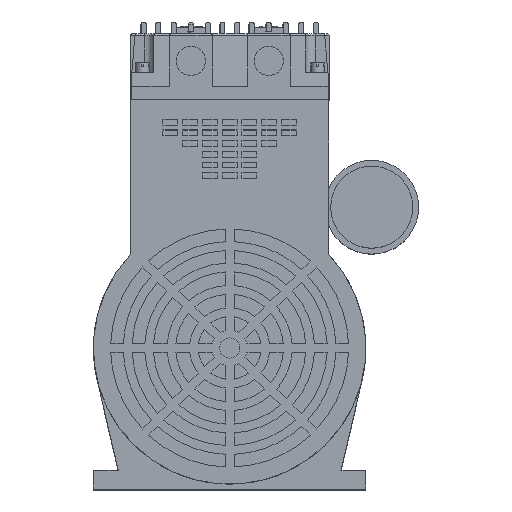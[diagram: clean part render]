
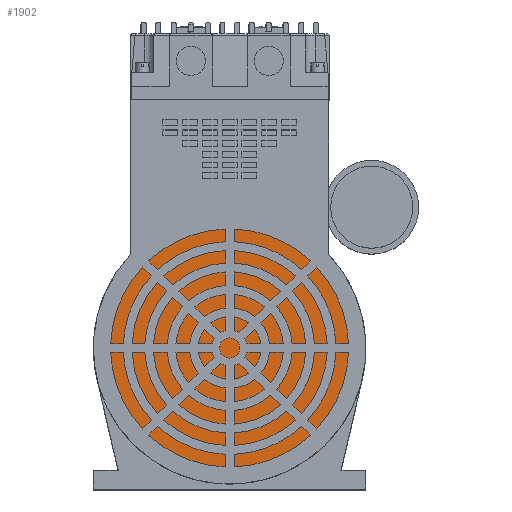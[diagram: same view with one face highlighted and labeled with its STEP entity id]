
A CAD part, top view. The second image highlights one B-rep face of the part: STEP entity #1902.
In plain terms, the highlighted planar face has unit normal (0, 0, 1).
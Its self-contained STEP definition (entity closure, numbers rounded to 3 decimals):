
#1902=ADVANCED_FACE('',(#5116),#5117,.T.);
#5116=FACE_OUTER_BOUND('',#8573,.T.);
#5117=PLANE('',#8574);
#8573=EDGE_LOOP('',(#20362));
#8574=AXIS2_PLACEMENT_3D('',#20363,#20364,#20365);
#20362=ORIENTED_EDGE('',*,*,#25720,.T.);
#20363=CARTESIAN_POINT('',(-57.575,-41.239,54.5));
#20364=DIRECTION('',(0.0,0.0,1.0));
#20365=DIRECTION('',(1.0,0.0,0.0));
#25720=EDGE_CURVE('',#32381,#32381,#32382,.T.);
#32381=VERTEX_POINT('',#42292);
#32382=CIRCLE('',#42293,70.0);
#42292=CARTESIAN_POINT('',(12.425,-41.239,54.5));
#42293=AXIS2_PLACEMENT_3D('',#48764,#48765,#48766);
#48764=CARTESIAN_POINT('',(-57.575,-41.239,54.5));
#48765=DIRECTION('',(0.0,0.0,1.0));
#48766=DIRECTION('',(1.0,0.0,0.0));
